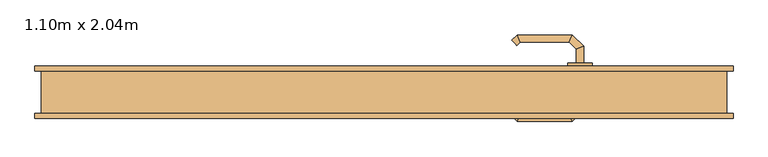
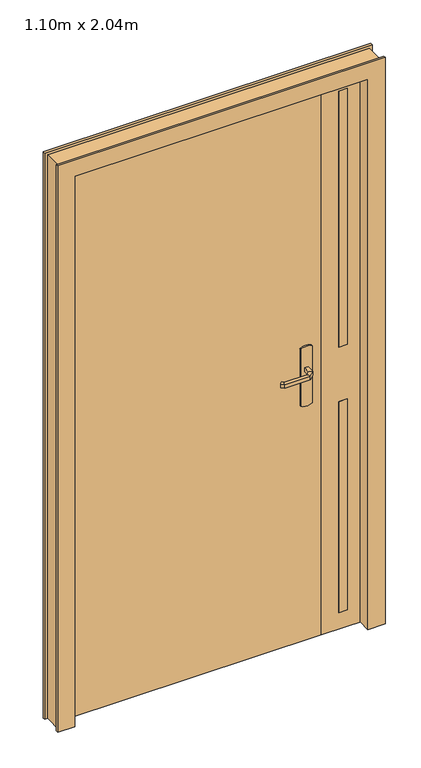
"""IFC4 building model written with IfcOpenShell, lengths in millimetres: door geometry, Tierce  160 : 1.10m x 2.04m."""

from ifc_helpers import new_model, si_unit, point, frame, frame_2d, origin, origin_with_axes, place, context, project, spatial, polyline, circle_curve, ellipse_curve, trimmed, segment, composite_curve, outline, extrude, faceted_brep, source, transform, mapped, element, save
from ifc_brep_helpers import plane_surface, cylinder_surface, advanced_brep


def door_1_10m_x_2_04m_5cb44dee(model_context):
    return source(origin(), model_context, "Body", "SolidModel", [
        advanced_brep(
        [(314.0, -2.0, 993.0), (314.0, -2.0, 1007.0), (326.0, -2.0, 1007.0), (326.0, -2.0, 993.0), (314.0, -24.4852045, 993.0), (314.0, -24.4852045, 1007.0), (326.0, -29.4557673, 1007.0), (326.0, -29.4557673, 993.0), (302.5147186, -35.9704859, 993.0), (302.5147186, -35.9704859, 1007.0), (307.4852814, -47.9704859, 1007.0), (307.4852814, -47.9704859, 993.0), (222.4394977, -35.9704859, 993.0), (222.4394977, -35.9704859, 1007.0), (217.468935, -47.9704859, 1007.0), (217.468935, -47.9704859, 993.0), (217.1257892, -30.6567774, 993.0), (208.6405078, -39.1420588, 993.0), (208.6405078, -39.1420588, 1007.0), (217.1257892, -30.6567774, 1007.0)],
        [
            (0, 1),
            (1, 2, circle_curve(frame((320.0, -2.0, 986.9542278), z_axis=(0.0, 1.0, 0.0), x_axis=(1.0, 0.0, 0.0)), 20.9244589)),
            (2, 3),
            (3, 0, circle_curve(frame((320.0, -2.0, 1013.0457722), z_axis=(0.0, 1.0, 0.0), x_axis=(1.0, 0.0, 0.0)), 20.9244589)),
            (0, 4),
            (4, 5),
            (5, 1),
            (5, 6, ellipse_curve(frame((320.0, -26.9704859, 986.9542278), z_axis=(0.38268343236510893, 0.9238795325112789, 0.0), x_axis=(-0.9238795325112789, 0.3826834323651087, 0.0)), 22.6484711, 20.9244589)),
            (6, 2),
            (6, 7),
            (7, 3),
            (7, 4, ellipse_curve(frame((320.0, -26.9704859, 1013.0457722), z_axis=(0.38268343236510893, 0.9238795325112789, 0.0), x_axis=(-0.9238795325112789, 0.3826834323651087, 0.0)), 22.6484711, 20.9244589)),
            (4, 8),
            (8, 9),
            (9, 5),
            (9, 10, ellipse_curve(frame((305.0, -41.9704859, 986.9542278), z_axis=(0.9238795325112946, 0.38268343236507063, 0.0), x_axis=(-0.3826834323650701, 0.9238795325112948, 0.0)), 22.6484711, 20.9244589)),
            (10, 6),
            (10, 11),
            (11, 7),
            (11, 8, ellipse_curve(frame((305.0, -41.9704859, 1013.0457722), z_axis=(0.9238795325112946, 0.38268343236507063, 0.0), x_axis=(-0.3826834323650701, 0.9238795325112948, 0.0)), 22.6484711, 20.9244589)),
            (8, 12),
            (12, 13),
            (13, 9),
            (13, 14, ellipse_curve(frame((219.9542163, -41.9704859, 986.9542278), z_axis=(0.9238795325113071, -0.38268343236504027, 0.0), x_axis=(0.38268343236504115, 0.9238795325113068, 0.0)), 22.6484711, 20.9244589)),
            (14, 10),
            (14, 15),
            (15, 11),
            (15, 12, ellipse_curve(frame((219.9542163, -41.9704859, 1013.0457722), z_axis=(0.9238795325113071, -0.38268343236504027, 0.0), x_axis=(0.38268343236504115, 0.9238795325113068, 0.0)), 22.6484711, 20.9244589)),
            (16, 17, circle_curve(frame((212.8831485, -34.8994181, 1013.0457722), z_axis=(-0.7071067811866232, 0.7071067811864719, 0.0), x_axis=(-0.7071067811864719, -0.7071067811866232, 0.0)), 20.9244589)),
            (17, 18),
            (18, 19, circle_curve(frame((212.8831485, -34.8994181, 986.9542278), z_axis=(-0.7071067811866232, 0.7071067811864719, 0.0), x_axis=(-0.7071067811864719, -0.7071067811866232, 0.0)), 20.9244589)),
            (19, 16),
            (12, 16),
            (19, 13),
            (18, 14),
            (17, 15),
        ],
        [
            plane_surface(frame((329.2195445, -2.0, 1000.0), z_axis=(0.0, 1.0, 0.0), x_axis=(0.0, 0.0, 1.0))),
            plane_surface(frame((314.0, -2.0, 993.0), z_axis=(-1.0, 0.0, 0.0), x_axis=(0.0, -1.0, 0.0))),
            cylinder_surface(frame((320.0, -2.0, 986.9542278), z_axis=(0.0, 1.0, 0.0), x_axis=(1.0, 0.0, 0.0)), 20.9244589),
            plane_surface(frame((326.0, -2.0, 1007.0), z_axis=(1.0, 0.0, 0.0), x_axis=(0.0, -1.0, 0.0))),
            cylinder_surface(frame((320.0, -2.0, 1013.0457722), z_axis=(0.0, 1.0, 0.0), x_axis=(1.0, 0.0, 0.0)), 20.9244589),
            plane_surface(frame((314.0, -24.4852045, 993.0), z_axis=(-0.707106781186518, 0.707106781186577, 0.0), x_axis=(-0.707106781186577, -0.707106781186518, 0.0))),
            cylinder_surface(frame((320.0, -26.9704859, 986.9542278), z_axis=(0.7071067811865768, 0.7071067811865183, 0.0), x_axis=(0.7071067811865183, -0.7071067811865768, 0.0)), 20.9244589),
            plane_surface(frame((326.0, -29.4557673, 1007.0), z_axis=(0.7071067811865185, -0.7071067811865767, 0.0), x_axis=(-0.7071067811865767, -0.7071067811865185, 0.0))),
            cylinder_surface(frame((320.0, -26.9704859, 1013.0457722), z_axis=(0.7071067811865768, 0.7071067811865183, 0.0), x_axis=(0.7071067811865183, -0.7071067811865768, 0.0)), 20.9244589),
            plane_surface(frame((302.5147186, -35.9704859, 993.0), z_axis=(0.0, 1.0, 0.0), x_axis=(-1.0, 0.0, 0.0))),
            cylinder_surface(frame((305.0, -41.9704859, 986.9542278), z_axis=(1.0, 0.0, 0.0), x_axis=(0.0, -1.0, 0.0)), 20.9244589),
            plane_surface(frame((307.4852814, -47.9704859, 1007.0), z_axis=(0.0, -1.0, 0.0), x_axis=(-1.0, 0.0, 0.0))),
            cylinder_surface(frame((305.0, -41.9704859, 1013.0457722), z_axis=(1.0, 0.0, 0.0), x_axis=(0.0, -1.0, 0.0)), 20.9244589),
            plane_surface(frame((212.8831485, -34.8994181, 990.7804555), z_axis=(-0.7071067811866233, 0.7071067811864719, 0.0), x_axis=(-0.7071067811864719, -0.7071067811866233, 0.0))),
            plane_surface(frame((222.4394977, -35.9704859, 993.0), z_axis=(0.707106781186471, 0.7071067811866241, 0.0), x_axis=(-0.7071067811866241, 0.707106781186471, 0.0))),
            cylinder_surface(frame((219.9542163, -41.9704859, 986.9542278), z_axis=(0.7071067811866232, -0.7071067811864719, 0.0), x_axis=(-0.7071067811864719, -0.7071067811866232, 0.0)), 20.9244589),
            plane_surface(frame((217.468935, -47.9704859, 1007.0), z_axis=(-0.7071067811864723, -0.7071067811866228, 0.0), x_axis=(-0.7071067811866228, 0.7071067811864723, 0.0))),
            cylinder_surface(frame((219.9542163, -41.9704859, 1013.0457722), z_axis=(0.7071067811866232, -0.7071067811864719, 0.0), x_axis=(-0.7071067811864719, -0.7071067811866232, 0.0)), 20.9244589),
        ],
        [
            (0, [[1, 2, 3, 4]]),
            (1, [[-1, 5, 6, 7]]),
            (2, [[-2, -7, 8, 9]]),
            (3, [[-3, -9, 10, 11]]),
            (4, [[-4, -11, 12, -5]]),
            (5, [[-6, 13, 14, 15]]),
            (6, [[-8, -15, 16, 17]]),
            (7, [[-10, -17, 18, 19]]),
            (8, [[-12, -19, 20, -13]]),
            (9, [[-14, 21, 22, 23]]),
            (10, [[-16, -23, 24, 25]]),
            (11, [[-18, -25, 26, 27]]),
            (12, [[-20, -27, 28, -21]]),
            (13, [[29, 30, 31, 32]]),
            (14, [[-22, 33, -32, 34]]),
            (15, [[-24, -34, -31, 35]]),
            (16, [[-26, -35, -30, 36]]),
            (17, [[-28, -36, -29, -33]]),
        ],
    ),
        advanced_brep(
        [(326.0, 48.0, 1007.0), (314.0, 48.0, 1007.0), (314.0, 48.0, 993.0), (326.0, 48.0, 993.0), (326.0, 75.6509507, 1007.0), (314.0, 70.680388, 1007.0), (314.0, 70.680388, 993.0), (326.0, 75.6509507, 993.0), (307.62279, 94.0281607, 1007.0), (302.6522273, 82.0281607, 1007.0), (302.6522273, 82.0281607, 993.0), (307.62279, 94.0281607, 993.0), (217.496078, 94.0281607, 1007.0), (222.4666408, 82.0281607, 1007.0), (222.4666408, 82.0281607, 993.0), (217.496078, 94.0281607, 993.0), (208.6676509, 85.1997336, 1007.0), (208.6676509, 85.1997336, 993.0), (217.1529323, 76.7144522, 993.0), (217.1529323, 76.7144522, 1007.0)],
        [
            (0, 1, circle_curve(frame((320.0, 48.0, 986.9542278), z_axis=(0.0, -1.0, 0.0), x_axis=(-1.0, 0.0, 0.0)), 20.9244589)),
            (1, 2),
            (2, 3, circle_curve(frame((320.0, 48.0, 1013.0457722), z_axis=(0.0, -1.0, 0.0), x_axis=(-1.0, 0.0, 0.0)), 20.9244589)),
            (3, 0),
            (0, 4),
            (4, 5, ellipse_curve(frame((320.0, 73.1656693, 986.9542278), z_axis=(0.3826834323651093, -0.9238795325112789, 0.0), x_axis=(-0.9238795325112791, -0.38268343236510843, 0.0)), 22.6484711, 20.9244589)),
            (5, 1),
            (5, 6),
            (6, 2),
            (6, 7, ellipse_curve(frame((320.0, 73.1656693, 1013.0457722), z_axis=(0.3826834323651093, -0.9238795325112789, 0.0), x_axis=(-0.9238795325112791, -0.38268343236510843, 0.0)), 22.6484711, 20.9244589)),
            (7, 3),
            (7, 4),
            (4, 8),
            (8, 9, ellipse_curve(frame((305.1375086, 88.0281607, 986.9542278), z_axis=(0.9238795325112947, -0.38268343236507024, 0.0), x_axis=(-0.3826834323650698, -0.9238795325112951, 0.0)), 22.6484711, 20.9244589)),
            (9, 5),
            (9, 10),
            (10, 6),
            (10, 11, ellipse_curve(frame((305.1375086, 88.0281607, 1013.0457722), z_axis=(0.9238795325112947, -0.38268343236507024, 0.0), x_axis=(-0.3826834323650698, -0.9238795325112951, 0.0)), 22.6484711, 20.9244589)),
            (11, 7),
            (11, 8),
            (8, 12),
            (12, 13, ellipse_curve(frame((219.9813594, 88.0281607, 986.9542278), z_axis=(0.9238795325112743, 0.3826834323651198, 0.0), x_axis=(0.38268343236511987, -0.9238795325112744, 0.0)), 22.6484711, 20.9244589)),
            (13, 9),
            (13, 14),
            (14, 10),
            (14, 15, ellipse_curve(frame((219.9813594, 88.0281607, 1013.0457722), z_axis=(0.9238795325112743, 0.3826834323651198, 0.0), x_axis=(0.38268343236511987, -0.9238795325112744, 0.0)), 22.6484711, 20.9244589)),
            (15, 11),
            (15, 12),
            (16, 17),
            (17, 18, circle_curve(frame((212.9102916, 80.9570929, 1013.0457722), z_axis=(-0.7071067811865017, -0.7071067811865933, 0.0), x_axis=(0.7071067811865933, -0.7071067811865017, 0.0)), 20.9244589)),
            (18, 19),
            (19, 16, circle_curve(frame((212.9102916, 80.9570929, 986.9542278), z_axis=(-0.7071067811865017, -0.7071067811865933, 0.0), x_axis=(0.7071067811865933, -0.7071067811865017, 0.0)), 20.9244589)),
            (12, 16),
            (19, 13),
            (18, 14),
            (17, 15),
        ],
        [
            plane_surface(frame((329.2195445, 48.0, 1000.0), z_axis=(0.0, -1.0, 0.0), x_axis=(0.0, 0.0, -1.0))),
            cylinder_surface(frame((320.0, 48.0, 986.9542278), z_axis=(0.0, -1.0, 0.0), x_axis=(-1.0, 0.0, 0.0)), 20.9244589),
            plane_surface(frame((314.0, 48.0, 1007.0), z_axis=(-1.0, 0.0, 0.0), x_axis=(0.0, 1.0, 0.0))),
            cylinder_surface(frame((320.0, 48.0, 1013.0457722), z_axis=(0.0, -1.0, 0.0), x_axis=(-1.0, 0.0, 0.0)), 20.9244589),
            plane_surface(frame((326.0, 48.0, 993.0), z_axis=(1.0, 0.0, 0.0), x_axis=(0.0, 1.0, 0.0))),
            cylinder_surface(frame((320.0, 73.1656693, 986.9542278), z_axis=(0.7071067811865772, -0.7071067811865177, 0.0), x_axis=(-0.7071067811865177, -0.7071067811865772, 0.0)), 20.9244589),
            plane_surface(frame((314.0, 70.680388, 1007.0), z_axis=(-0.7071067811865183, -0.7071067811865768, 0.0), x_axis=(-0.7071067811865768, 0.7071067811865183, 0.0))),
            cylinder_surface(frame((320.0, 73.1656693, 1013.0457722), z_axis=(0.7071067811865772, -0.7071067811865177, 0.0), x_axis=(-0.7071067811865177, -0.7071067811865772, 0.0)), 20.9244589),
            plane_surface(frame((326.0, 75.6509507, 993.0), z_axis=(0.707106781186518, 0.707106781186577, 0.0), x_axis=(-0.707106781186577, 0.707106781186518, 0.0))),
            cylinder_surface(frame((305.1375086, 88.0281607, 986.9542278), z_axis=(1.0, 0.0, 0.0), x_axis=(0.0, -1.0, 0.0)), 20.9244589),
            plane_surface(frame((302.6522273, 82.0281607, 1007.0), z_axis=(0.0, -1.0, 0.0), x_axis=(-1.0, 0.0, 0.0))),
            cylinder_surface(frame((305.1375086, 88.0281607, 1013.0457722), z_axis=(1.0, 0.0, 0.0), x_axis=(0.0, -1.0, 0.0)), 20.9244589),
            plane_surface(frame((307.62279, 94.0281607, 993.0), z_axis=(0.0, 1.0, 0.0), x_axis=(-1.0, 0.0, 0.0))),
            plane_surface(frame((212.9102916, 80.9570929, 1009.2195445), z_axis=(-0.7071067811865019, -0.7071067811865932, 0.0), x_axis=(-0.7071067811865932, 0.7071067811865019, 0.0))),
            cylinder_surface(frame((219.9813594, 88.0281607, 986.9542278), z_axis=(0.7071067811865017, 0.7071067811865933, 0.0), x_axis=(0.7071067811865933, -0.7071067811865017, 0.0)), 20.9244589),
            plane_surface(frame((222.4666408, 82.0281607, 1007.0), z_axis=(0.7071067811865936, -0.7071067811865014, 0.0), x_axis=(-0.7071067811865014, -0.7071067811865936, 0.0))),
            cylinder_surface(frame((219.9813594, 88.0281607, 1013.0457722), z_axis=(0.7071067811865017, 0.7071067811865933, 0.0), x_axis=(0.7071067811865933, -0.7071067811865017, 0.0)), 20.9244589),
            plane_surface(frame((217.496078, 94.0281607, 993.0), z_axis=(-0.707106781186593, 0.7071067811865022, 0.0), x_axis=(-0.7071067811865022, -0.707106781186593, 0.0))),
        ],
        [
            (0, [[1, 2, 3, 4]]),
            (1, [[-1, 5, 6, 7]]),
            (2, [[-2, -7, 8, 9]]),
            (3, [[-3, -9, 10, 11]]),
            (4, [[-4, -11, 12, -5]]),
            (5, [[-6, 13, 14, 15]]),
            (6, [[-8, -15, 16, 17]]),
            (7, [[-10, -17, 18, 19]]),
            (8, [[-12, -19, 20, -13]]),
            (9, [[-14, 21, 22, 23]]),
            (10, [[-16, -23, 24, 25]]),
            (11, [[-18, -25, 26, 27]]),
            (12, [[-20, -27, 28, -21]]),
            (13, [[29, 30, 31, 32]]),
            (14, [[-22, 33, -32, 34]]),
            (15, [[-24, -34, -31, 35]]),
            (16, [[-26, -35, -30, 36]]),
            (17, [[-28, -36, -29, -33]]),
        ],
    ),
        extrude(outline(composite_curve([segment(polyline([(1080.0, 300.0), (870.0, 300.0)]), True, "CONTINUOUS"), segment(trimmed(circle_curve(frame_2d((904.6410162, 320.0)), 40.0), [point((870.0, 300.0))], [point((870.0, 340.0))], False, "CARTESIAN"), True, "CONTINUOUS"), segment(polyline([(870.0, 340.0), (1080.0, 340.0)]), True, "CONTINUOUS"), segment(trimmed(circle_curve(frame_2d((1045.3589838, 320.0)), 40.0), [point((1080.0, 340.0))], [point((1080.0, 300.0))], False, "CARTESIAN"), True, "CONTINUOUS")], self_intersect=False)), frame((0.0, -2.0, 0.0), z_axis=(0.0, 1.0, 0.0), x_axis=(0.0, 0.0, 1.0)), (0.0, 0.0, 1.0), 5.0),
        extrude(outline(composite_curve([segment(polyline([(870.0, 340.0), (1080.0, 340.0)]), True, "CONTINUOUS"), segment(trimmed(circle_curve(frame_2d((1045.3589838, 320.0)), 40.0), [point((1080.0, 340.0))], [point((1080.0, 300.0))], False, "CARTESIAN"), True, "CONTINUOUS"), segment(polyline([(1080.0, 300.0), (870.0, 300.0)]), True, "CONTINUOUS"), segment(trimmed(circle_curve(frame_2d((904.6410162, 320.0)), 40.0), [point((870.0, 300.0))], [point((870.0, 340.0))], False, "CARTESIAN"), True, "CONTINUOUS")], self_intersect=False)), frame((0.0, 43.0, 0.0), z_axis=(0.0, 1.0, 0.0), x_axis=(0.0, 0.0, 1.0)), (0.0, 0.0, 1.0), 5.0),
        faceted_brep([(-560.0, 35.0, 0.0), (-570.0, 35.0, 0.0), (-570.0, 43.0, 0.0), (-525.0, 43.0, 0.0), (-525.0, 3.0, 0.0), (-510.0, 3.0, 0.0), (-510.0, -43.0, 0.0), (-570.0, -43.0, 0.0), (-570.0, -35.0, 0.0), (-560.0, -35.0, 0.0), (-560.0, -35.0, 2075.0), (-560.0, 35.0, 2075.0), (-570.0, -35.0, 2085.0), (570.0, -35.0, 2085.0), (570.0, -35.0, 0.0), (560.0, -35.0, 0.0), (560.0, -35.0, 2075.0), (-570.0, -43.0, 2085.0), (-510.0, -43.0, 2025.0), (510.0, -43.0, 2025.0), (510.0, -43.0, 0.0), (570.0, -43.0, 0.0), (570.0, -43.0, 2085.0), (-510.0, 3.0, 2025.0), (-525.0, 3.0, 2040.0), (525.0, 3.0, 2040.0), (525.0, 3.0, 0.0), (510.0, 3.0, 0.0), (510.0, 3.0, 2025.0), (-525.0, 43.0, 2040.0), (-570.0, 43.0, 2085.0), (570.0, 43.0, 2085.0), (570.0, 43.0, 0.0), (525.0, 43.0, 0.0), (525.0, 43.0, 2040.0), (-570.0, 35.0, 2085.0), (560.0, 35.0, 2075.0), (560.0, 35.0, 0.0), (570.0, 35.0, 0.0), (570.0, 35.0, 2085.0)], [[[0, 1, 2, 3, 4, 5, 6, 7, 8, 9]], [[9, 10, 11, 0]], [[8, 12, 13, 14, 15, 16, 10, 9]], [[7, 17, 12, 8]], [[6, 18, 19, 20, 21, 22, 17, 7]], [[5, 23, 18, 6]], [[4, 24, 25, 26, 27, 28, 23, 5]], [[3, 29, 24, 4]], [[2, 30, 31, 32, 33, 34, 29, 3]], [[1, 35, 30, 2]], [[0, 11, 36, 37, 38, 39, 35, 1]], [[16, 15, 37, 36]], [[37, 15, 14, 21, 20, 27, 26, 33, 32, 38]], [[22, 21, 14, 13]], [[28, 27, 20, 19]], [[34, 33, 26, 25]], [[39, 38, 32, 31]], [[10, 16, 36, 11]], [[17, 22, 13, 12]], [[23, 28, 19, 18]], [[29, 34, 25, 24]], [[35, 39, 31, 30]]]),
        extrude(outline(polyline([(465.0, 43.0), (465.0, 3.0), (435.0, 3.0), (435.0, 43.0), (465.0, 43.0)])), frame((0.0, 0.0, 60.0), z_axis=(0.0, 0.0, 1.0), x_axis=(1.0, 0.0, 0.0)), (0.0, 0.0, 1.0), 777.5),
        extrude(outline(polyline([(465.0, 43.0), (465.0, 3.0), (435.0, 3.0), (435.0, 43.0), (465.0, 43.0)])), frame((0.0, 0.0, 1037.5), z_axis=(0.0, 0.0, 1.0), x_axis=(1.0, 0.0, 0.0)), (0.0, 0.0, 1.0), 942.5),
        extrude(outline(polyline([(2040.0, 525.0), (2040.0, 375.0), (0.0, 375.0), (0.0, 525.0), (2040.0, 525.0)]), holes=[polyline([(837.5, 435.0), (837.5, 465.0), (60.0, 465.0), (60.0, 435.0), (837.5, 435.0)]), polyline([(1037.5, 465.0), (1037.5, 435.0), (1980.0, 435.0), (1980.0, 465.0), (1037.5, 465.0)])]), frame((0.0, 3.0, 0.0), z_axis=(0.0, 1.0, 0.0), x_axis=(0.0, 0.0, 1.0)), (0.0, 0.0, 1.0), 40.0),
        extrude(outline(polyline([(375.0, 43.0), (375.0, 3.0), (-525.0, 3.0), (-525.0, 43.0), (375.0, 43.0)])), origin_with_axes(), (0.0, 0.0, 1.0), 2040.0),
    ])


if __name__ == "__main__":
    model = new_model("IFC4")
    model_context = context("Model", 3, world=origin())
    ifc_project = project(units=[si_unit("LENGTHUNIT", "METRE", prefix="MILLI")], contexts=[model_context])
    site = spatial("IfcSite", under=ifc_project)
    building = spatial("IfcBuilding", under=site)
    placement = place(None, origin())
    door_1_10m_x_2_04m_shape = door_1_10m_x_2_04m_5cb44dee(model_context)
    element("IfcDoor", 1, ObjectType="Tierce  160 : 1.10m x 2.04m", at=placement, inside=building, context=model_context, shape_type="MappedRepresentation", body=[
        mapped(door_1_10m_x_2_04m_shape, transform((0.0, 0.0, 0.0), x_axis=(1.0, 0.0, 0.0), y_axis=(0.0, 1.0, 0.0), z_axis=(0.0, 0.0, 1.0))),
    ])
    save(model, "model.ifc")
